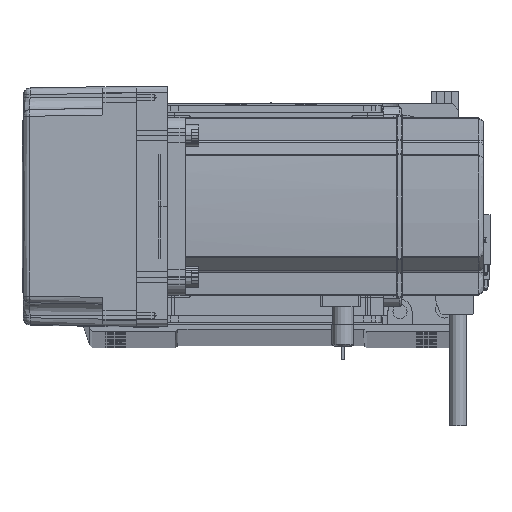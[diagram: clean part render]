
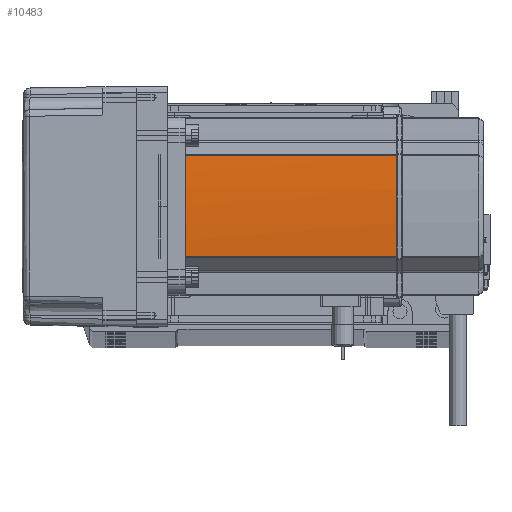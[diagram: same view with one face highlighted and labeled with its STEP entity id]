
A CAD part, top view. The second image highlights one B-rep face of the part: STEP entity #10483.
In plain terms, the highlighted cylindrical face has radius 270 mm (diameter 540 mm), a partial arc.
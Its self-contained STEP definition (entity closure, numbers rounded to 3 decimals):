
#1374 = CARTESIAN_POINT ( 'NONE',  ( 39.042, 22.724, 58. ) ) ;
#4869 = VECTOR ( 'NONE', #45431, 1000. ) ;
#5548 = VERTEX_POINT ( 'NONE', #21585 ) ;
#5942 = EDGE_CURVE ( 'NONE', #6568, #68781, #19065, .T. ) ;
#5980 = ORIENTED_EDGE ( 'NONE', *, *, #42496, .F. ) ;
#6568 = VERTEX_POINT ( 'NONE', #25835 ) ;
#8327 = VERTEX_POINT ( 'NONE', #49989 ) ;
#10163 = VERTEX_POINT ( 'NONE', #18601 ) ;
#10483 = ADVANCED_FACE ( 'NONE', ( #61320 ), #33202, .T. ) ;
#15315 = B_SPLINE_CURVE_WITH_KNOTS ( 'NONE', 3,
 ( #65092, #33143, #17632, #44801 ),
 .UNSPECIFIED., .F., .F.,
 ( 4, 4 ),
 ( 0., 1. ),
 .UNSPECIFIED. ) ;
#15706 = DIRECTION ( 'NONE',  ( -1., 0., 0. ) ) ;
#16402 = DIRECTION ( 'NONE',  ( 0., 0., -1. ) ) ;
#17397 = AXIS2_PLACEMENT_3D ( 'NONE', #21133, #16402, #49263 ) ;
#17632 = CARTESIAN_POINT ( 'NONE',  ( 40., 0.042, 134. ) ) ;
#18252 = EDGE_LOOP ( 'NONE', ( #36449, #19905, #65050, #39157, #5980, #30056 ) ) ;
#18601 = CARTESIAN_POINT ( 'NONE',  ( 39.042, -22.724, 39. ) ) ;
#19065 = CIRCLE ( 'NONE', #34791, 270. ) ;
#19905 = ORIENTED_EDGE ( 'NONE', *, *, #67382, .F. ) ;
#21133 = CARTESIAN_POINT ( 'NONE',  ( -230., 0., 134. ) ) ;
#21585 = CARTESIAN_POINT ( 'NONE',  ( 39.042, 22.724, 39. ) ) ;
#23004 = CIRCLE ( 'NONE', #35751, 270. ) ;
#24422 = EDGE_CURVE ( 'NONE', #68781, #10163, #49924, .T. ) ;
#25835 = CARTESIAN_POINT ( 'NONE',  ( 40., -0.127, 134. ) ) ;
#26787 = DIRECTION ( 'NONE',  ( 0., 0., -1. ) ) ;
#29029 = AXIS2_PLACEMENT_3D ( 'NONE', #32043, #26787, #70166 ) ;
#30056 = ORIENTED_EDGE ( 'NONE', *, *, #5942, .T. ) ;
#31112 = CARTESIAN_POINT ( 'NONE',  ( 39.042, -22.724, 58. ) ) ;
#32043 = CARTESIAN_POINT ( 'NONE',  ( -230., 0., 58. ) ) ;
#32586 = DIRECTION ( 'NONE',  ( 0., 0., -1. ) ) ;
#33143 = CARTESIAN_POINT ( 'NONE',  ( 40., -0.042, 134. ) ) ;
#33202 = CYLINDRICAL_SURFACE ( 'NONE', #29029, 270. ) ;
#33551 = EDGE_CURVE ( 'NONE', #5548, #51841, #40663, .T. ) ;
#34791 = AXIS2_PLACEMENT_3D ( 'NONE', #55529, #61048, #50759 ) ;
#35751 = AXIS2_PLACEMENT_3D ( 'NONE', #54269, #32586, #15706 ) ;
#36449 = ORIENTED_EDGE ( 'NONE', *, *, #24422, .T. ) ;
#39157 = ORIENTED_EDGE ( 'NONE', *, *, #65674, .T. ) ;
#40542 = VECTOR ( 'NONE', #58403, 1000. ) ;
#40663 = LINE ( 'NONE', #1374, #4869 ) ;
#42496 = EDGE_CURVE ( 'NONE', #6568, #8327, #15315, .T. ) ;
#44801 = CARTESIAN_POINT ( 'NONE',  ( 40., 0.127, 134. ) ) ;
#45431 = DIRECTION ( 'NONE',  ( 0., 0., 1. ) ) ;
#49263 = DIRECTION ( 'NONE',  ( -1., 0., 0. ) ) ;
#49924 = LINE ( 'NONE', #31112, #40542 ) ;
#49989 = CARTESIAN_POINT ( 'NONE',  ( 40., 0.127, 134. ) ) ;
#50759 = DIRECTION ( 'NONE',  ( -1., 0., 0. ) ) ;
#51841 = VERTEX_POINT ( 'NONE', #55123 ) ;
#54269 = CARTESIAN_POINT ( 'NONE',  ( -230., 0., 39. ) ) ;
#55123 = CARTESIAN_POINT ( 'NONE',  ( 39.042, 22.724, 134. ) ) ;
#55210 = CARTESIAN_POINT ( 'NONE',  ( 39.042, -22.724, 134. ) ) ;
#55529 = CARTESIAN_POINT ( 'NONE',  ( -230., 0., 134. ) ) ;
#58403 = DIRECTION ( 'NONE',  ( 0., 0., -1. ) ) ;
#61048 = DIRECTION ( 'NONE',  ( 0., 0., -1. ) ) ;
#61320 = FACE_OUTER_BOUND ( 'NONE', #18252, .T. ) ;
#65050 = ORIENTED_EDGE ( 'NONE', *, *, #33551, .T. ) ;
#65092 = CARTESIAN_POINT ( 'NONE',  ( 40., -0.127, 134. ) ) ;
#65674 = EDGE_CURVE ( 'NONE', #51841, #8327, #70105, .T. ) ;
#67382 = EDGE_CURVE ( 'NONE', #5548, #10163, #23004, .T. ) ;
#68781 = VERTEX_POINT ( 'NONE', #55210 ) ;
#70105 = CIRCLE ( 'NONE', #17397, 270. ) ;
#70166 = DIRECTION ( 'NONE',  ( -1., 0., 0. ) ) ;
